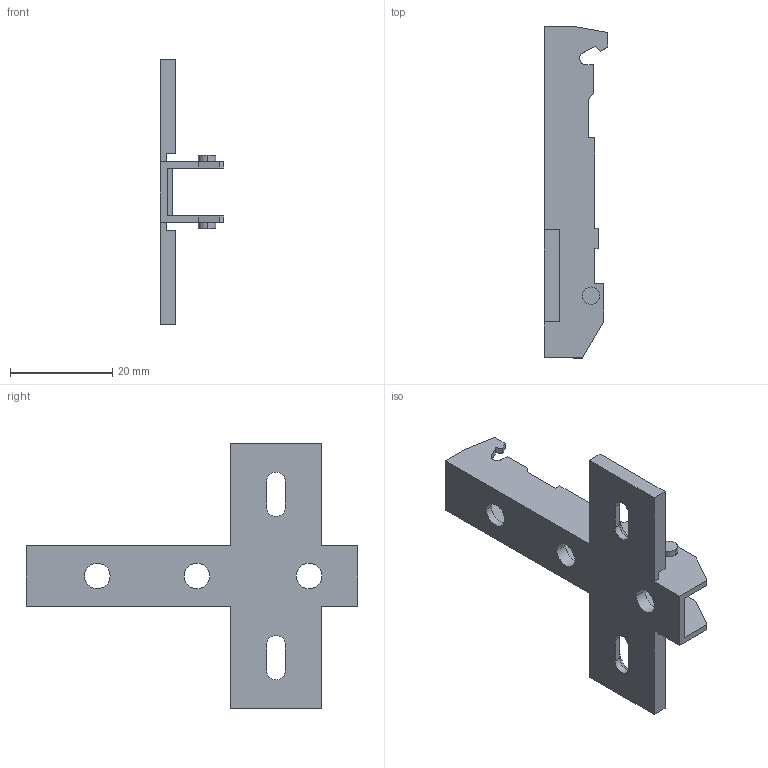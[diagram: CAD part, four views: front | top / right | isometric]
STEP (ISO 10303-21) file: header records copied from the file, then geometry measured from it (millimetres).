
FILE_DESCRIPTION (( 'STEP AP214' ), '1' );
FILE_NAME ('Eco Kreuzmontageplatte LR28_32_Spax_H02.step', '2010-11-18T10:05:29', ( 'grass' ), ( '' ), 'SwSTEP 2.0', 'SolidWorks 2010', '' );
FILE_SCHEMA (( 'AUTOMOTIVE_DESIGN' ));
Length unit declared in the file: millimetre
Products named in the file (1): Eco Kreuzmontageplatte LR28_32_Spax_H02
Bounding box: 12.5 x 65 x 52 mm (x, y, z)
Volume: 4417.1 mm3; surface area: 5781.2 mm2
Topology: 1 solids, 1 shells, 90 faces, 250 edges, 164 vertices
Faces by surface type: plane 70, cylinder 16, cone 4
Entity records: 2900 total; most frequent: CARTESIAN_POINT 505, ORIENTED_EDGE 500, DIRECTION 468, EDGE_CURVE 250, VECTOR 214, LINE 214, VERTEX_POINT 164, AXIS2_PLACEMENT_3D 127
